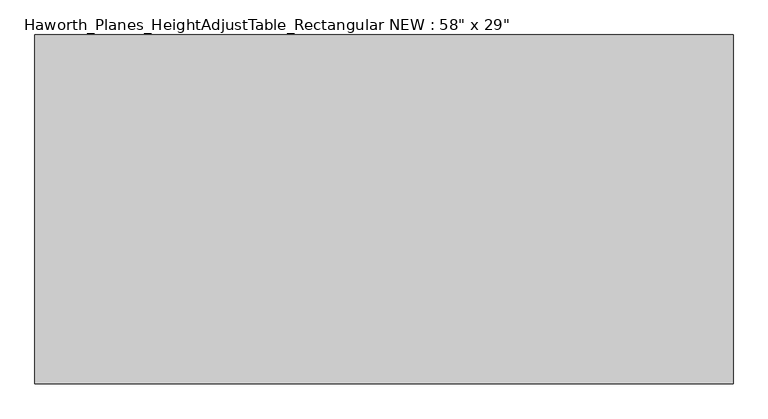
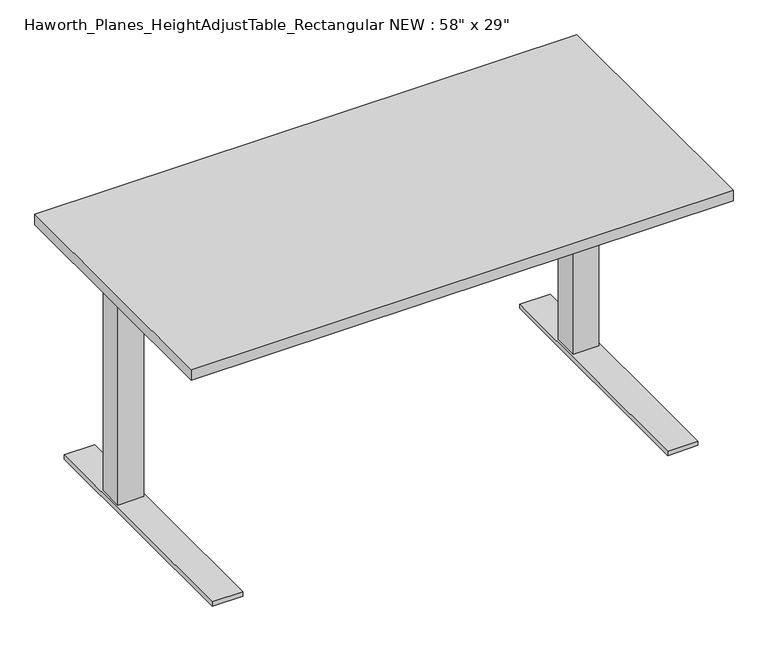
"""IFC4 building model written with IfcOpenShell, lengths in millimetres: furniture geometry."""

import ifcopenshell
import ifcopenshell.guid

model = None  # the IFC model being written
_history = None  # IfcOwnerHistory: only IFC2X3 demands one
_inside = {}  # id of a spatial element -> (the spatial element, [elements in it])
_under = {}  # id of a project, library or spatial element -> (it, [spatial elements below it])
_declared = {}  # id of a project -> (the project, [libraries it declares])
_typed = {}  # id of a type object -> (the type object, [elements of that type])
_made_of = {}  # id of a material, layer set ... -> (it, [elements and type objects made of it])


def new_model(schema):
    """Start an empty IFC model of exactly this schema.

    Asked for "IFC4X3", IfcOpenShell would pick the latest addendum, in which some entities
    have other attributes; the version numbers below select the first issue.
    IFC2X3 requires an IfcOwnerHistory on every rooted entity: one is made here for all.
    """
    global model, _history
    if schema == "IFC4X3":
        model = ifcopenshell.file(schema_version=(4, 3, 0, 0))
    else:
        model = ifcopenshell.file(schema=schema)
    _inside.clear()
    _under.clear()
    _declared.clear()
    _typed.clear()
    _made_of.clear()
    _history = None
    if model.schema == "IFC2X3":
        org = make("IfcOrganization", Name="unknown")
        user = make(
            "IfcPersonAndOrganization",
            ThePerson=make("IfcPerson", FamilyName="unknown"),
            TheOrganization=org,
        )
        app = make(
            "IfcApplication",
            ApplicationDeveloper=org,
            Version="unknown",
            ApplicationFullName="unknown",
            ApplicationIdentifier="unknown",
        )
        _history = make(
            "IfcOwnerHistory",
            OwningUser=user,
            OwningApplication=app,
            ChangeAction="ADDED",
            CreationDate=0,
        )
    return model


def make(cls, **values):
    """One entity of the class cls with the attributes given. An attribute that is None is left unset."""
    return model.create_entity(
        cls, **{name: value for name, value in values.items() if value is not None}
    )


def rooted(cls, **values):
    """An entity with a GlobalId (a new one), such as an element, a storey or a relation."""
    return make(cls, GlobalId=ifcopenshell.guid.new(), OwnerHistory=_history, **values)


def si_unit(unit_type, name, prefix=None):
    """IfcSIUnit, for example si_unit("LENGTHUNIT", "METRE", prefix="MILLI")."""
    return make("IfcSIUnit", UnitType=unit_type, Prefix=prefix, Name=name)


def assignment(units):
    """IfcUnitAssignment: the units of a project."""
    return None if units is None else make("IfcUnitAssignment", Units=units)


def point(xyz):
    """IfcCartesianPoint."""
    return None if xyz is None else make("IfcCartesianPoint", Coordinates=xyz)


def direction(xyz):
    """IfcDirection."""
    return None if xyz is None else make("IfcDirection", DirectionRatios=xyz)


def frame(location, z_axis=None, x_axis=None):
    """IfcAxis2Placement3D, a coordinate frame: its origin and axes. An axis left out is left unset."""
    return make(
        "IfcAxis2Placement3D",
        Location=point(location),
        Axis=direction(z_axis),
        RefDirection=direction(x_axis),
    )


def frame_2d(location, x_axis=None):
    """IfcAxis2Placement2D, a coordinate frame in the plane: its origin and x axis."""
    return make(
        "IfcAxis2Placement2D", Location=point(location), RefDirection=direction(x_axis)
    )


def origin():
    """The frame at (0, 0, 0) with its axes left unset."""
    return frame((0.0, 0.0, 0.0))


def origin_with_axes():
    """The frame at (0, 0, 0) with the z axis (0, 0, 1) and the x axis (1, 0, 0) written out."""
    return frame((0.0, 0.0, 0.0), z_axis=(0.0, 0.0, 1.0), x_axis=(1.0, 0.0, 0.0))


def place(relative_to, where):
    """IfcLocalPlacement: puts the frame where relative to a parent placement (None: the world)."""
    return make(
        "IfcLocalPlacement", PlacementRelTo=relative_to, RelativePlacement=where
    )


def context(
    kind, dimensions, precision=None, world=None, true_north=None, identifier=None
):
    """IfcGeometricRepresentationContext, for example the 3D "Model" context."""
    return make(
        "IfcGeometricRepresentationContext",
        ContextIdentifier=identifier,
        ContextType=kind,
        CoordinateSpaceDimension=dimensions,
        Precision=precision,
        WorldCoordinateSystem=world,
        TrueNorth=true_north,
    )


def project(units=None, contexts=None):
    """IfcProject with its units and contexts."""
    return rooted(
        "IfcProject",
        Name="project",
        RepresentationContexts=contexts,
        UnitsInContext=assignment(units),
    )


def spatial(cls, under=None, at=None, **own):
    """A site, building, storey or space (cls), placed at a placement, below another one or the project."""
    s = rooted(cls, ObjectPlacement=at, **own)
    if under is not None:
        _under.setdefault(under.id(), (under, []))[1].append(s)
    return s


def polyline(points):
    """IfcPolyline through the points."""
    return make("IfcPolyline", Points=[point(p) for p in points])


def circle_curve(where, radius):
    """IfcCircle in the frame where."""
    return make("IfcCircle", Position=where, Radius=radius)


def trimmed(basis, trim1, trim2, sense, master):
    """IfcTrimmedCurve: the piece of a basis curve between two trims."""
    return make(
        "IfcTrimmedCurve",
        BasisCurve=basis,
        Trim1=trim1,
        Trim2=trim2,
        SenseAgreement=sense,
        MasterRepresentation=master,
    )


def segment(curve, same_sense, transition):
    """IfcCompositeCurveSegment."""
    return make(
        "IfcCompositeCurveSegment",
        Transition=transition,
        SameSense=same_sense,
        ParentCurve=curve,
    )


def composite_curve(segments, self_intersect=None):
    """IfcCompositeCurve: segments joined end to end."""
    return make("IfcCompositeCurve", Segments=segments, SelfIntersect=self_intersect)


def outline(outer, holes=None, kind="AREA"):
    """IfcArbitraryClosedProfileDef: a profile drawn as a closed curve; with holes, ...WithVoids."""
    if holes is None:
        return make("IfcArbitraryClosedProfileDef", ProfileType=kind, OuterCurve=outer)
    return make(
        "IfcArbitraryProfileDefWithVoids",
        ProfileType=kind,
        OuterCurve=outer,
        InnerCurves=holes,
    )


def extrude(swept, where, along, depth):
    """IfcExtrudedAreaSolid: the profile swept, set in the frame where, extruded along a direction by depth."""
    return make(
        "IfcExtrudedAreaSolid",
        SweptArea=swept,
        Position=where,
        ExtrudedDirection=direction(along),
        Depth=depth,
    )


def faces_of(points, faces, orient=None, outer=None):
    """IfcFace entities. A face is a list of loops; a loop is a list of indices into points, from 0.

    orient and outer hold one flag for each loop. By default every Orientation is true, the
    first loop of a face is its IfcFaceOuterBound and the others are IfcFaceBound.
    """
    made = []
    for i, loops in enumerate(faces):
        bounds = []
        for j, loop in enumerate(loops):
            is_outer = j == 0 if outer is None else outer[i][j]
            bounds.append(
                make(
                    "IfcFaceOuterBound" if is_outer else "IfcFaceBound",
                    Bound=make("IfcPolyLoop", Polygon=[points[k] for k in loop]),
                    Orientation=True if orient is None else orient[i][j],
                )
            )
        made.append(make("IfcFace", Bounds=bounds))
    return made


def faceted_brep(points, faces, orient=None, outer=None, voids=None):
    """IfcFacetedBrep: a solid bounded by flat faces; with voids (closed shells), ...WithVoids."""
    shared = [point(p) for p in points]
    hull = make("IfcClosedShell", CfsFaces=faces_of(shared, faces, orient, outer))
    if voids is None:
        return make("IfcFacetedBrep", Outer=hull)
    return make(
        "IfcFacetedBrepWithVoids",
        Outer=hull,
        Voids=[
            make(cls, CfsFaces=faces_of(shared, fs, o, b)) for cls, fs, o, b in voids
        ],
    )


def shape(context_of_items, identifier, shape_type, items):
    """IfcShapeRepresentation: the items that make up one representation, for example the "Body"."""
    return make(
        "IfcShapeRepresentation",
        ContextOfItems=context_of_items,
        RepresentationIdentifier=identifier,
        RepresentationType=shape_type,
        Items=items,
    )


def source(mapping_origin, context_of_items, identifier, shape_type, items):
    """IfcRepresentationMap: a shape defined once, which mapped items show again and again."""
    return make(
        "IfcRepresentationMap",
        MappingOrigin=mapping_origin,
        MappedRepresentation=shape(context_of_items, identifier, shape_type, items),
    )


def transform(
    local_origin,
    x_axis=None,
    y_axis=None,
    z_axis=None,
    scale=None,
    scale2=None,
    scale3=None,
    uniform=True,
):
    """IfcCartesianTransformationOperator3D, or its non-uniform kind. x_axis, y_axis, z_axis: its Axis1, 2, 3."""
    if uniform:
        return make(
            "IfcCartesianTransformationOperator3D",
            Axis1=direction(x_axis),
            Axis2=direction(y_axis),
            LocalOrigin=point(local_origin),
            Scale=scale,
            Axis3=direction(z_axis),
        )
    return make(
        "IfcCartesianTransformationOperator3DnonUniform",
        Axis1=direction(x_axis),
        Axis2=direction(y_axis),
        LocalOrigin=point(local_origin),
        Scale=scale,
        Axis3=direction(z_axis),
        Scale2=scale2,
        Scale3=scale3,
    )


def mapped(mapping_source, mapping_target):
    """IfcMappedItem: shows the shape of a source again, moved by a transform."""
    return make(
        "IfcMappedItem", MappingSource=mapping_source, MappingTarget=mapping_target
    )


def made_of(thing, what):
    """Note that an element or type object is made of a material, layer set ...; save() writes the relation."""
    if what is not None:
        _made_of.setdefault(what.id(), (what, []))[1].append(thing)
    return thing


def element(
    cls,
    number,
    at=None,
    inside=None,
    cuts=None,
    type_object=None,
    material=None,
    context=None,
    identifier="Body",
    shape_type=None,
    held_by="IfcProductDefinitionShape",
    body=None,
    shapes=None,
    **own,
):
    """One element of the class cls, such as IfcWall. Its Tag is "e" and its number.

    at: its placement. inside: the storey or other place that contains it. cuts: it is an
    opening in that element (IfcRelVoidsElement). A single representation is given by context,
    identifier, shape_type and body (its items); several are given by shapes. held_by: the class
    of the entity that holds the representations. save() writes the other relations.
    """
    e = rooted(cls, Tag="e%d" % number, ObjectPlacement=at, **own)
    if body is not None:
        shapes = [shape(context, identifier, shape_type, body)]
    if shapes is not None:
        e.Representation = make(held_by, Representations=shapes)
    if inside is not None:
        _inside.setdefault(inside.id(), (inside, []))[1].append(e)
    if cuts is not None:
        rooted(
            "IfcRelVoidsElement", RelatingBuildingElement=cuts, RelatedOpeningElement=e
        )
    if type_object is not None:
        _typed.setdefault(type_object.id(), (type_object, []))[1].append(e)
    return made_of(e, material)


def aggregate(whole, parts):
    """IfcRelAggregates: a whole, such as a stair, and the parts it consists of."""
    return rooted("IfcRelAggregates", RelatingObject=whole, RelatedObjects=parts)


def save(model, path):
    """Write the relations noted so far, then the file.

    IfcRelAggregates (storeys below a building ...), IfcRelContainedInSpatialStructure (elements
    in a storey), IfcRelDefinesByType, IfcRelAssociatesMaterial and IfcRelDeclares: one each for
    every whole, place, type object, material and project.
    """
    for whole, parts in _under.values():
        aggregate(whole, parts)
    for where, things in _inside.values():
        rooted(
            "IfcRelContainedInSpatialStructure",
            RelatedElements=things,
            RelatingStructure=where,
        )
    for kind, things in _typed.values():
        rooted("IfcRelDefinesByType", RelatedObjects=things, RelatingType=kind)
    for what, things in _made_of.values():
        rooted("IfcRelAssociatesMaterial", RelatedObjects=things, RelatingMaterial=what)
    for by, libraries in _declared.values():
        rooted("IfcRelDeclares", RelatingContext=by, RelatedDefinitions=libraries)
    model.write(path)


def furniture_c5e95a2a(model_context):
    return source(origin(), model_context, "Body", "SolidModel", [
        extrude(outline(polyline([(588.9625, 185.7375), (649.2875, 185.7375), (649.2875, 125.4125), (588.9625, 125.4125), (588.9625, 185.7375)])), frame((0.0, 0.0, 598.4875), z_axis=(0.0, 0.0, 1.0), x_axis=(1.0, 0.0, 0.0)), (0.0, 0.0, 1.0), 107.95),
        faceted_brep([(577.85, 361.95, 9.525), (577.85, -334.9625, 9.525), (577.85, -334.9625, 22.225), (577.85, 361.95, 22.225), (660.4, 361.95, 9.525), (660.4, 361.95, 22.225), (660.4, -334.9625, 22.225), (660.4, -334.9625, 9.525), (584.2, 190.5, 598.4875), (584.2, 120.65, 598.4875), (654.05, 120.65, 598.4875), (654.05, 190.5, 598.4875), (654.05, 190.5, 22.225), (584.2, 190.5, 22.225), (654.05, 120.65, 22.225), (584.2, 120.65, 22.225)], [[[0, 1, 2, 3]], [[4, 5, 6, 7]], [[0, 4, 7, 1]], [[8, 9, 10, 11]], [[11, 12, 13, 8]], [[10, 14, 12, 11]], [[9, 15, 14, 10]], [[8, 13, 15, 9]], [[3, 5, 4, 0]], [[2, 6, 5, 3], [12, 14, 15, 13]], [[1, 7, 6, 2]]]),
        extrude(outline(polyline([(317.5, 706.4375), (317.5, 697.1238172), (175.5257579, 639.7625), (60.8782415, 639.7625), (-241.3, 698.5), (-241.3, 706.4375), (317.5, 706.4375)])), frame((654.05, 0.0, 0.0), z_axis=(1.0, 0.0, 0.0), x_axis=(0.0, 1.0, 0.0)), (0.0, 0.0, 1.0), 3.175),
        extrude(outline(composite_curve([segment(trimmed(circle_curve(frame_2d((619.125, 293.6875)), 28.5342152), [point((647.6592152, 293.6875))], [point((590.5907848, 293.6875))], False, "CARTESIAN"), True, "CONTINUOUS"), segment(trimmed(circle_curve(frame_2d((619.125, 293.6875)), 28.5342152), [point((590.5907848, 293.6875))], [point((647.6592152, 293.6875))], False, "CARTESIAN"), True, "CONTINUOUS")], self_intersect=False)), origin_with_axes(), (0.0, 0.0, 1.0), 9.525),
        extrude(outline(composite_curve([segment(trimmed(circle_curve(frame_2d((619.125, -228.6)), 28.6553383), [point((647.7803383, -228.6))], [point((590.4696617, -228.6))], False, "CARTESIAN"), True, "CONTINUOUS"), segment(trimmed(circle_curve(frame_2d((619.125, -228.6)), 28.6553383), [point((590.4696617, -228.6))], [point((647.7803383, -228.6))], False, "CARTESIAN"), True, "CONTINUOUS")], self_intersect=False)), origin_with_axes(), (0.0, 0.0, 1.0), 9.525),
        extrude(outline(polyline([(-588.9625, 185.7375), (-588.9625, 125.4125), (-649.2875, 125.4125), (-649.2875, 185.7375), (-588.9625, 185.7375)])), frame((0.0, 0.0, 598.4875), z_axis=(0.0, 0.0, 1.0), x_axis=(1.0, 0.0, 0.0)), (0.0, 0.0, 1.0), 107.95),
        faceted_brep([(-577.85, 361.95, 9.525), (-577.85, 361.95, 22.225), (-577.85, -334.9625, 22.225), (-577.85, -334.9625, 9.525), (-660.4, 361.95, 9.525), (-660.4, -334.9625, 9.525), (-660.4, -334.9625, 22.225), (-660.4, 361.95, 22.225), (-584.2, 190.5, 598.4875), (-654.05, 190.5, 598.4875), (-654.05, 120.65, 598.4875), (-584.2, 120.65, 598.4875), (-584.2, 190.5, 22.225), (-654.05, 190.5, 22.225), (-654.05, 120.65, 22.225), (-584.2, 120.65, 22.225)], [[[0, 1, 2, 3]], [[4, 5, 6, 7]], [[0, 3, 5, 4]], [[8, 9, 10, 11]], [[9, 8, 12, 13]], [[10, 9, 13, 14]], [[11, 10, 14, 15]], [[8, 11, 15, 12]], [[1, 0, 4, 7]], [[2, 1, 7, 6], [13, 12, 15, 14]], [[3, 2, 6, 5]]]),
        extrude(outline(polyline([(317.5, 706.4375), (317.5, 697.1238172), (175.5257579, 639.7625), (60.8782415, 639.7625), (-241.3, 698.5), (-241.3, 706.4375), (317.5, 706.4375)])), frame((-657.225, 0.0, 0.0), z_axis=(1.0, 0.0, 0.0), x_axis=(0.0, 1.0, 0.0)), (0.0, 0.0, 1.0), 3.175),
        extrude(outline(composite_curve([segment(trimmed(circle_curve(frame_2d((-619.125, 293.6875)), 28.5342152), [point((-647.6592152, 293.6875))], [point((-590.5907848, 293.6875))], False, "CARTESIAN"), True, "CONTINUOUS"), segment(trimmed(circle_curve(frame_2d((-619.125, 293.6875)), 28.5342152), [point((-590.5907848, 293.6875))], [point((-647.6592152, 293.6875))], False, "CARTESIAN"), True, "CONTINUOUS")], self_intersect=False)), origin_with_axes(), (0.0, 0.0, 1.0), 9.525),
        extrude(outline(composite_curve([segment(trimmed(circle_curve(frame_2d((-619.125, -228.6)), 28.6553383), [point((-647.7803383, -228.6))], [point((-590.4696617, -228.6))], False, "CARTESIAN"), True, "CONTINUOUS"), segment(trimmed(circle_curve(frame_2d((-619.125, -228.6)), 28.6553383), [point((-590.4696617, -228.6))], [point((-647.7803383, -228.6))], False, "CARTESIAN"), True, "CONTINUOUS")], self_intersect=False)), origin_with_axes(), (0.0, 0.0, 1.0), 9.525),
        extrude(outline(polyline([(736.6, 368.3), (736.6, -368.3), (-736.6, -368.3), (-736.6, 368.3), (736.6, 368.3)])), frame((0.0, 0.0, 706.4375), z_axis=(0.0, 0.0, 1.0), x_axis=(1.0, 0.0, 0.0)), (0.0, 0.0, 1.0), 30.1625),
        extrude(outline(polyline([(212.725, 692.15), (212.725, 652.4625), (98.425, 652.4625), (98.425, 692.15), (76.2, 692.15), (76.2, 706.4375), (234.95, 706.4375), (234.95, 692.15), (212.725, 692.15)])), frame((-654.05, 0.0, 0.0), z_axis=(1.0, 0.0, 0.0), x_axis=(0.0, 1.0, 0.0)), (0.0, 0.0, 1.0), 1308.1),
    ])


if __name__ == "__main__":
    model = new_model("IFC4")
    model_context = context("Model", 3, world=origin())
    ifc_project = project(units=[si_unit("LENGTHUNIT", "METRE", prefix="MILLI")], contexts=[model_context])
    site = spatial("IfcSite", under=ifc_project)
    building = spatial("IfcBuilding", under=site)
    placement = place(None, origin())
    furniture_shape = furniture_c5e95a2a(model_context)
    element("IfcFurniture", 1, ObjectType="Haworth_Planes_HeightAdjustTable_Rectangular NEW : 58\" x 29\"", at=placement, inside=building, context=model_context, shape_type="MappedRepresentation", body=[
        mapped(furniture_shape, transform((0.0, 0.0, 0.0), x_axis=(1.0, 0.0, 0.0), y_axis=(0.0, 1.0, 0.0), z_axis=(0.0, 0.0, 1.0))),
    ])
    save(model, "model.ifc")
